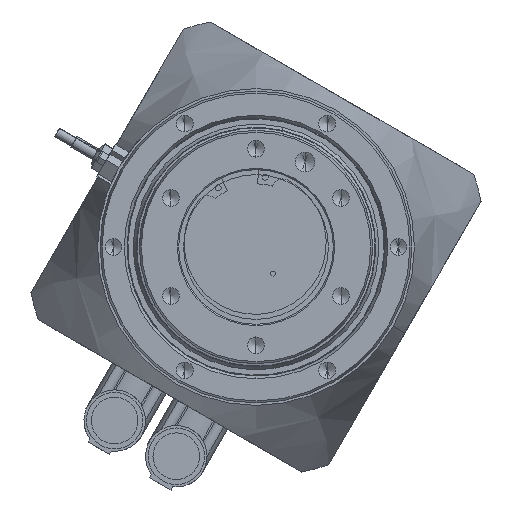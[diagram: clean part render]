
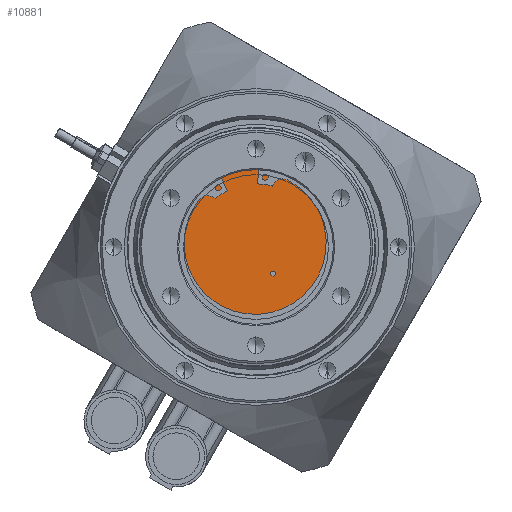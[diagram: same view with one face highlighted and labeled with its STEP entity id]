
A CAD part, front view. The second image highlights one B-rep face of the part: STEP entity #10881.
In plain terms, the highlighted planar face has unit normal (0, -1, 0).
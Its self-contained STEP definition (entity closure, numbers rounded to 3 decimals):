
#1090 = DIRECTION ( 'NONE',  ( 0., 1., 0. ) ) ;
#2340 = CARTESIAN_POINT ( 'NONE',  ( 71.219, -247.879, 65.694 ) ) ;
#2378 = CARTESIAN_POINT ( 'NONE',  ( 78.16, -247.879, 87.367 ) ) ;
#2842 = EDGE_CURVE ( 'NONE', #4530, #19642, #12985, .T. ) ;
#3303 = FACE_BOUND ( 'NONE', #15351, .T. ) ;
#4530 = VERTEX_POINT ( 'NONE', #12334 ) ;
#4570 = DIRECTION ( 'NONE',  ( 0., 1., 0. ) ) ;
#4944 = DIRECTION ( 'NONE',  ( 0., 1., 0. ) ) ;
#7044 = ORIENTED_EDGE ( 'NONE', *, *, #2842, .T. ) ;
#7618 = DIRECTION ( 'NONE',  ( 0., 0., 1. ) ) ;
#8588 = AXIS2_PLACEMENT_3D ( 'NONE', #17803, #4570, #20008 ) ;
#9015 = DIRECTION ( 'NONE',  ( 0., 1., 0. ) ) ;
#9259 = CIRCLE ( 'NONE', #8588, 31.5 ) ;
#9741 = PLANE ( 'NONE',  #19377 ) ;
#9827 = CIRCLE ( 'NONE', #20614, 31.5 ) ;
#10881 = ADVANCED_FACE ( 'NONE', ( #26145, #3303 ), #9741, .F. ) ;
#12334 = CARTESIAN_POINT ( 'NONE',  ( 78.16, -247.879, 85.367 ) ) ;
#12985 = CIRCLE ( 'NONE', #28171, 1. ) ;
#13194 = ORIENTED_EDGE ( 'NONE', *, *, #20723, .T. ) ;
#14384 = CARTESIAN_POINT ( 'NONE',  ( 78.16, -247.879, 86.367 ) ) ;
#15351 = EDGE_LOOP ( 'NONE', ( #7044, #13194 ) ) ;
#16408 = CARTESIAN_POINT ( 'NONE',  ( 71.219, -247.879, 97.194 ) ) ;
#16573 = DIRECTION ( 'NONE',  ( 0., 0., 1. ) ) ;
#16615 = EDGE_CURVE ( 'NONE', #28033, #27885, #9259, .T. ) ;
#16652 = CIRCLE ( 'NONE', #27011, 1. ) ;
#17803 = CARTESIAN_POINT ( 'NONE',  ( 71.219, -247.879, 97.194 ) ) ;
#18158 = CARTESIAN_POINT ( 'NONE',  ( 71.219, -247.879, 97.194 ) ) ;
#19377 = AXIS2_PLACEMENT_3D ( 'NONE', #16408, #20828, #7618 ) ;
#19642 = VERTEX_POINT ( 'NONE', #2378 ) ;
#20008 = DIRECTION ( 'NONE',  ( 0., 0., 1. ) ) ;
#20172 = ORIENTED_EDGE ( 'NONE', *, *, #26482, .F. ) ;
#20382 = DIRECTION ( 'NONE',  ( 0., 0., 1. ) ) ;
#20614 = AXIS2_PLACEMENT_3D ( 'NONE', #18158, #4944, #20382 ) ;
#20723 = EDGE_CURVE ( 'NONE', #19642, #4530, #16652, .T. ) ;
#20828 = DIRECTION ( 'NONE',  ( 0., 1., 0. ) ) ;
#22252 = CARTESIAN_POINT ( 'NONE',  ( 78.16, -247.879, 86.367 ) ) ;
#24470 = DIRECTION ( 'NONE',  ( 0., 0., 1. ) ) ;
#24975 = CARTESIAN_POINT ( 'NONE',  ( 71.219, -247.879, 128.694 ) ) ;
#25764 = EDGE_LOOP ( 'NONE', ( #20172, #27721 ) ) ;
#26145 = FACE_OUTER_BOUND ( 'NONE', #25764, .T. ) ;
#26482 = EDGE_CURVE ( 'NONE', #27885, #28033, #9827, .T. ) ;
#27011 = AXIS2_PLACEMENT_3D ( 'NONE', #22252, #9015, #24470 ) ;
#27721 = ORIENTED_EDGE ( 'NONE', *, *, #16615, .F. ) ;
#27885 = VERTEX_POINT ( 'NONE', #2340 ) ;
#28033 = VERTEX_POINT ( 'NONE', #24975 ) ;
#28171 = AXIS2_PLACEMENT_3D ( 'NONE', #14384, #1090, #16573 ) ;
